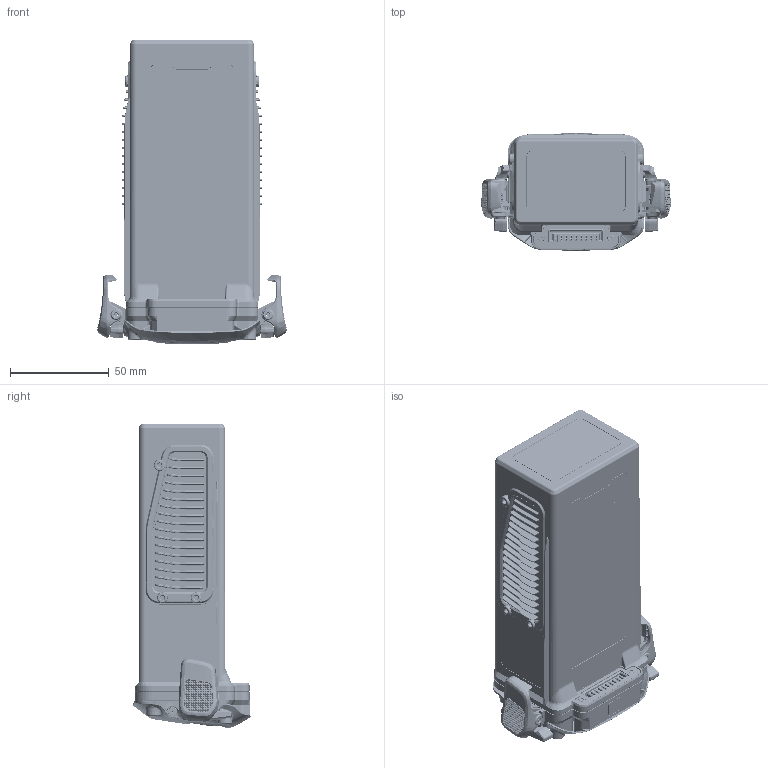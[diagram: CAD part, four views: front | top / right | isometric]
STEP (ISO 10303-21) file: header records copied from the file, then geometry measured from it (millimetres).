
FILE_DESCRIPTION((''),'2;1');
FILE_NAME('00_EA230_DRONE_BATTERY_ASM','2024-11-01T17:41:29',('dogrot.liu'),(''),'CREO PARAMETRIC BY PTC INC, 2019164','CREO PARAMETRIC BY PTC INC, 2019164','');
FILE_SCHEMA(('AUTOMOTIVE_DESIGN { 1 0 10303 214 1 1 1 1 }'));
Products named in the file (33): 04_EA230_BATT_COM-F_ASM; 02_EA230_BATT_CON-F_HOUSING; 02_EA230_BATT_CON-F_NUT; 02_EA230_BATT_CON-F_CONTACT-18A; 01_EA230_BATT_CON-F_ASM; 00_EA230_BATT_CON_ASM; 04_EA230_BATT_COM-ASM_ASM; 05_EA230_BATT_SR-L; 05_EA230_BATT_SR-R; 04_EA230_BATT_BOT_SHELL-V02; EA230_BATT_BOT_INSERTMOLD_ASM; 04_EA230_BATT_TOP_SHELL-V02; EA230_BATT_PSDK_NUT; EA230_BATT_TOP_INSERTMOLD_ASM; T16-TC00600030-045005-0051-N; EA230_BAT_LOCK_SHAFT; EA230_BAT_LOCK_SPRING_N; EA230_TEM_ASM_ASM; EA230_DRONE_BAT_LOCK_BUTTON_B; EA230_DRONE_BAT_LOCK_BUTTON_A; EA230_DRONE_BAT_LOCK_PIN_B; EA230_DRONE_BAT_LOCK_PIN_A; 04_EA230_BATT_GRAPHITE; 04_EA230_BATT_PC_TOP; 04_EA230_BATT_PC_BOT; YC_WJ_LL000059_00; 04_EA230_BATT_PC_BACK; PM430_BATT_WINDOWFILM; 06_EA230_BATT_KEYPAD; EA230_BATT_CONFOAM; 03_EA230_BATTERY_SHELL-V02_ASM; 02_EA230_BATT_345CELL-V02_ASM; 00_EA230_DRONE_BATTERY_ASM
Assembly tree (47 placements, depth 6):
  00_EA230_DRONE_BATTERY_ASM
    02_EA230_BATT_345CELL-V02_ASM
      04_EA230_BATT_COM-ASM_ASM
        04_EA230_BATT_COM-F_ASM
        00_EA230_BATT_CON_ASM
          01_EA230_BATT_CON-F_ASM
            02_EA230_BATT_CON-F_HOUSING
            02_EA230_BATT_CON-F_NUT  x2
            02_EA230_BATT_CON-F_CONTACT-18A  x9
      03_EA230_BATTERY_SHELL-V02_ASM
        EA230_BATT_BOT_INSERTMOLD_ASM
          05_EA230_BATT_SR-L
          05_EA230_BATT_SR-R
          04_EA230_BATT_BOT_SHELL-V02
        EA230_BATT_TOP_INSERTMOLD_ASM
          04_EA230_BATT_TOP_SHELL-V02
          EA230_BATT_PSDK_NUT  x4
        EA230_TEM_ASM_ASM
          T16-TC00600030-045005-0051-N  x2
          EA230_BAT_LOCK_SHAFT  x2
          EA230_BAT_LOCK_SPRING_N
        EA230_DRONE_BAT_LOCK_BUTTON_B
        EA230_DRONE_BAT_LOCK_BUTTON_A
        EA230_DRONE_BAT_LOCK_PIN_B
        EA230_DRONE_BAT_LOCK_PIN_A
        04_EA230_BATT_GRAPHITE
        04_EA230_BATT_PC_TOP
        04_EA230_BATT_PC_BOT
        YC_WJ_LL000059_00  x2
        04_EA230_BATT_PC_BACK
        PM430_BATT_WINDOWFILM
        06_EA230_BATT_KEYPAD
        EA230_BATT_CONFOAM
Bounding box: 95.99 x 59.33 x 154.05 mm (x, y, z)
Volume: 44008.6 mm3; surface area: 120652.1 mm2
Topology: 38 solids, 38 shells, 14885 faces, 37626 edges, 23346 vertices
Faces by surface type: plane 4799, cylinder 3551, bspline 3198, cone 2621, torus 408, extrusion 207, sphere 101
Entity records: 748500 total; most frequent: CARTESIAN_POINT 284933, ORIENTED_EDGE 65616, DIRECTION 50260, PRESENTATION_STYLE_ASSIGNMENT 40468, STYLED_ITEM 36739, EDGE_CURVE 32808, CURVE_STYLE 31699, VERTEX_POINT 20208
